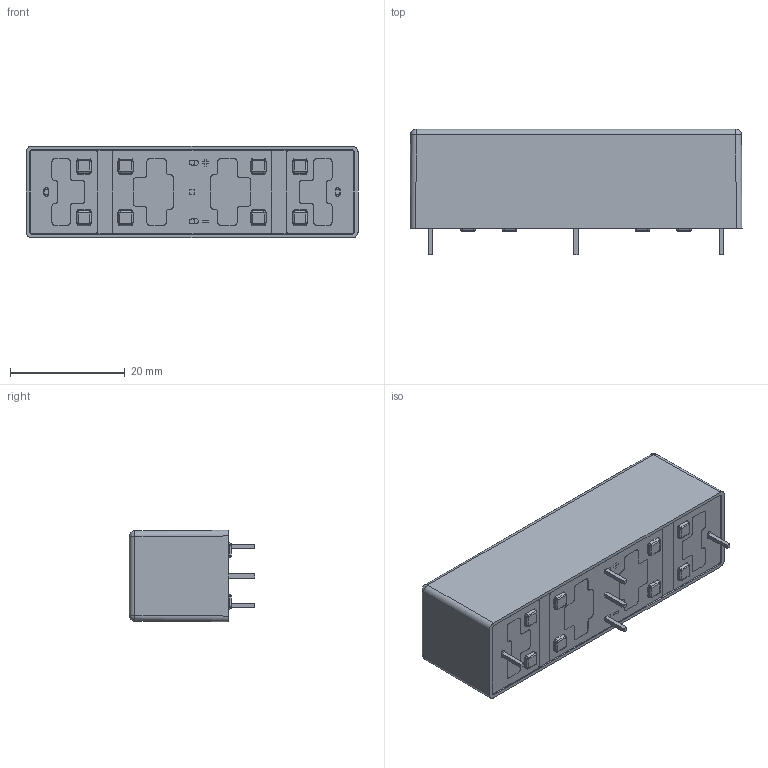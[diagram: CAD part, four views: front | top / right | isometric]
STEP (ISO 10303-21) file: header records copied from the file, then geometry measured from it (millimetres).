
FILE_DESCRIPTION (( 'STEP AP203' ), '1' );
FILE_NAME ('600 SERIES - 600ES 1A or B PCB-1.STEP', '2025-06-30T15:30:39', ( '' ), ( '' ), 'SwSTEP 2.0', 'SolidWorks 2023', '' );
FILE_SCHEMA (( 'CONFIG_CONTROL_DESIGN' ));
Length unit declared in the file: millimetre
Products named in the file (1): 600 SERIES - 600ES 1A or B PCB-1
Bounding box: 57.85 x 21.87 x 15.95 mm (x, y, z)
Volume: 2205.8 mm3; surface area: 8402.1 mm2
Topology: 39 solids, 39 shells, 895 faces, 2270 edges, 1456 vertices
Faces by surface type: plane 419, cylinder 344, bspline 96, sphere 36
Entity records: 27581 total; most frequent: CARTESIAN_POINT 6906, ORIENTED_EDGE 4540, DIRECTION 4070, EDGE_CURVE 2270, VERTEX_POINT 1456, AXIS2_PLACEMENT_3D 1388, VECTOR 1294, LINE 1294
